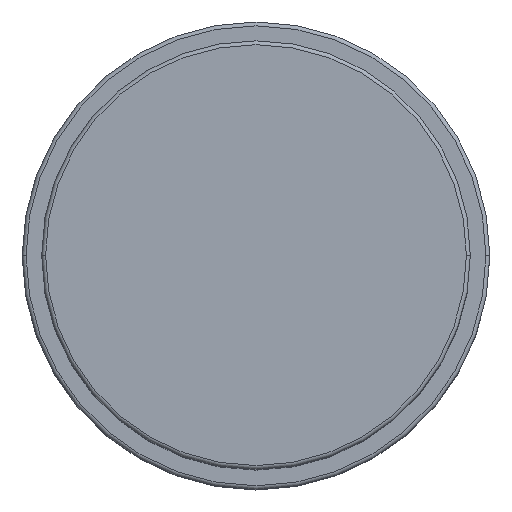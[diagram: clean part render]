
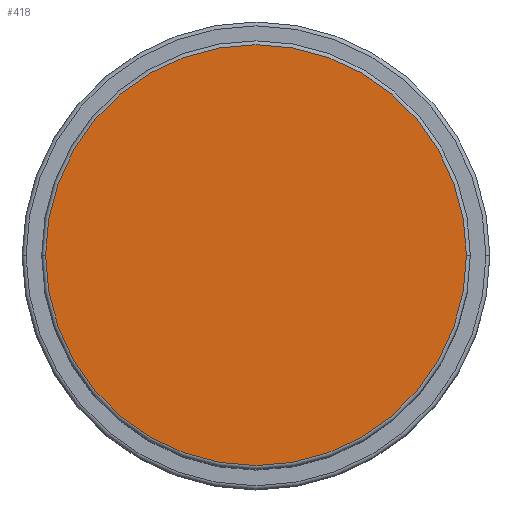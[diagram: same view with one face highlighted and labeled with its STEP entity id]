
A CAD part, top view. The second image highlights one B-rep face of the part: STEP entity #418.
In plain terms, the highlighted planar face has unit normal (0, 0, 1).
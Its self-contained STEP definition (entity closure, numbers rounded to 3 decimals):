
#7 = AXIS2_PLACEMENT_3D ( 'NONE', #873, #1751, #852 ) ;
#132 = VERTEX_POINT ( 'NONE', #578 ) ;
#359 = EDGE_CURVE ( 'NONE', #946, #132, #621, .T. ) ;
#418 = ADVANCED_FACE ( 'NONE', ( #803 ), #1164, .T. ) ;
#492 = ORIENTED_EDGE ( 'NONE', *, *, #1059, .T. ) ;
#518 = ORIENTED_EDGE ( 'NONE', *, *, #359, .T. ) ;
#578 = CARTESIAN_POINT ( 'NONE',  ( 27., 0., 76. ) ) ;
#621 = CIRCLE ( 'NONE', #7, 27. ) ;
#702 = CARTESIAN_POINT ( 'NONE',  ( 0., 0., 76. ) ) ;
#780 = DIRECTION ( 'NONE',  ( 1., 0., 0. ) ) ;
#803 = FACE_OUTER_BOUND ( 'NONE', #1361, .T. ) ;
#852 = DIRECTION ( 'NONE',  ( 1., 0., 0. ) ) ;
#873 = CARTESIAN_POINT ( 'NONE',  ( 0., 0., 76. ) ) ;
#890 = CARTESIAN_POINT ( 'NONE',  ( -27., 0., 76. ) ) ;
#946 = VERTEX_POINT ( 'NONE', #890 ) ;
#1059 = EDGE_CURVE ( 'NONE', #132, #946, #1276, .T. ) ;
#1164 = PLANE ( 'NONE',  #1847 ) ;
#1172 = DIRECTION ( 'NONE',  ( 1., 0., 0. ) ) ;
#1259 = AXIS2_PLACEMENT_3D ( 'NONE', #1825, #1691, #780 ) ;
#1276 = CIRCLE ( 'NONE', #1259, 27. ) ;
#1361 = EDGE_LOOP ( 'NONE', ( #492, #518 ) ) ;
#1691 = DIRECTION ( 'NONE',  ( 0., 0., 1. ) ) ;
#1751 = DIRECTION ( 'NONE',  ( 0., 0., 1. ) ) ;
#1825 = CARTESIAN_POINT ( 'NONE',  ( 0., 0., 76. ) ) ;
#1847 = AXIS2_PLACEMENT_3D ( 'NONE', #702, #1919, #1172 ) ;
#1919 = DIRECTION ( 'NONE',  ( 0., 0., 1. ) ) ;
